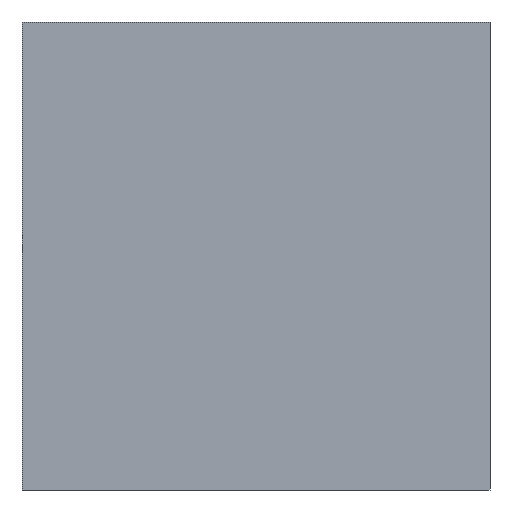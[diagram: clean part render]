
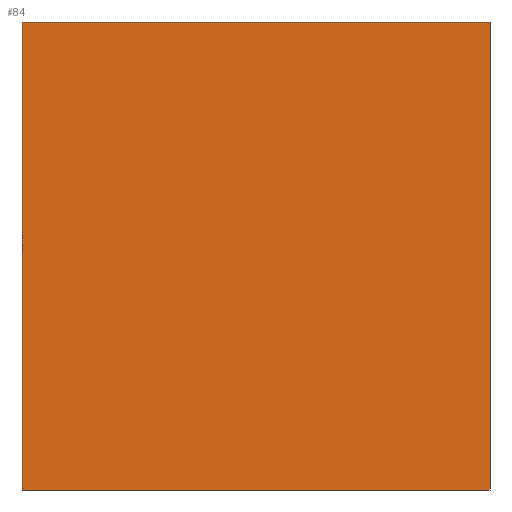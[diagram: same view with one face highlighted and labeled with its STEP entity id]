
A CAD part, left-side view. The second image highlights one B-rep face of the part: STEP entity #84.
In plain terms, the highlighted planar face has unit normal (-1, 0, 0).
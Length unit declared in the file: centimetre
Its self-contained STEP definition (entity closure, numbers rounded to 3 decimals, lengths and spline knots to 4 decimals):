
#32 = EDGE_CURVE ( 'NONE', #224, #335, #323, .T. ) ;
#45 = PLANE ( 'NONE',  #69 ) ;
#69 = AXIS2_PLACEMENT_3D ( 'NONE', #78, #148, #215 ) ;
#72 = VERTEX_POINT ( 'NONE', #310 ) ;
#78 = CARTESIAN_POINT ( 'NONE',  ( 0., 1000., 1000. ) ) ;
#81 = CARTESIAN_POINT ( 'NONE',  ( 0., 0., 0. ) ) ;
#84 = ADVANCED_FACE ( 'NONE', ( #381 ), #45, .F. ) ;
#123 = ORIENTED_EDGE ( 'NONE', *, *, #32, .F. ) ;
#126 = DIRECTION ( 'NONE',  ( 0., 0., -1. ) ) ;
#146 = DIRECTION ( 'NONE',  ( 0., -1., 0. ) ) ;
#148 = DIRECTION ( 'NONE',  ( 1., 0., 0. ) ) ;
#155 = DIRECTION ( 'NONE',  ( 0., 0., -1. ) ) ;
#168 = EDGE_CURVE ( 'NONE', #72, #264, #426, .T. ) ;
#194 = EDGE_CURVE ( 'NONE', #264, #335, #376, .T. ) ;
#211 = VECTOR ( 'NONE', #155, 100. ) ;
#215 = DIRECTION ( 'NONE',  ( 0., 0., -1. ) ) ;
#224 = VERTEX_POINT ( 'NONE', #342 ) ;
#227 = LINE ( 'NONE', #282, #304 ) ;
#233 = EDGE_LOOP ( 'NONE', ( #280, #123, #318, #364 ) ) ;
#250 = EDGE_CURVE ( 'NONE', #72, #224, #227, .T. ) ;
#264 = VERTEX_POINT ( 'NONE', #325 ) ;
#280 = ORIENTED_EDGE ( 'NONE', *, *, #194, .T. ) ;
#282 = CARTESIAN_POINT ( 'NONE',  ( 0., 1000., 1000. ) ) ;
#304 = VECTOR ( 'NONE', #357, 100. ) ;
#310 = CARTESIAN_POINT ( 'NONE',  ( 0., 1000., 1000. ) ) ;
#318 = ORIENTED_EDGE ( 'NONE', *, *, #250, .F. ) ;
#323 = LINE ( 'NONE', #359, #211 ) ;
#325 = CARTESIAN_POINT ( 'NONE',  ( 0., 1000., 0. ) ) ;
#335 = VERTEX_POINT ( 'NONE', #81 ) ;
#342 = CARTESIAN_POINT ( 'NONE',  ( 0., 0., 1000. ) ) ;
#346 = CARTESIAN_POINT ( 'NONE',  ( 0., 1000., 1000. ) ) ;
#357 = DIRECTION ( 'NONE',  ( 0., -1., 0. ) ) ;
#359 = CARTESIAN_POINT ( 'NONE',  ( 0., 0., 1000. ) ) ;
#364 = ORIENTED_EDGE ( 'NONE', *, *, #168, .T. ) ;
#372 = VECTOR ( 'NONE', #146, 100. ) ;
#376 = LINE ( 'NONE', #380, #372 ) ;
#380 = CARTESIAN_POINT ( 'NONE',  ( 0., 1000., 0. ) ) ;
#381 = FACE_OUTER_BOUND ( 'NONE', #233, .T. ) ;
#409 = VECTOR ( 'NONE', #126, 100. ) ;
#426 = LINE ( 'NONE', #346, #409 ) ;
